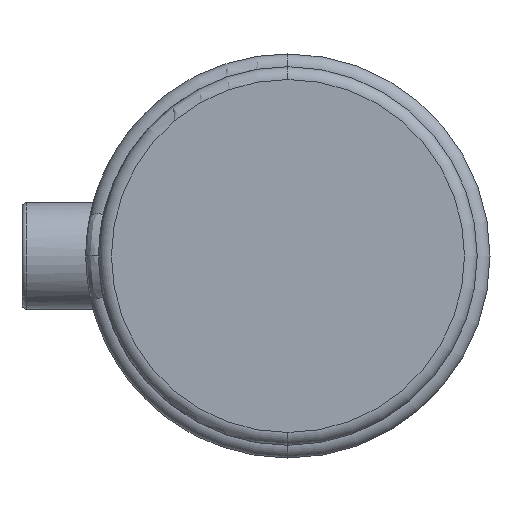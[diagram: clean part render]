
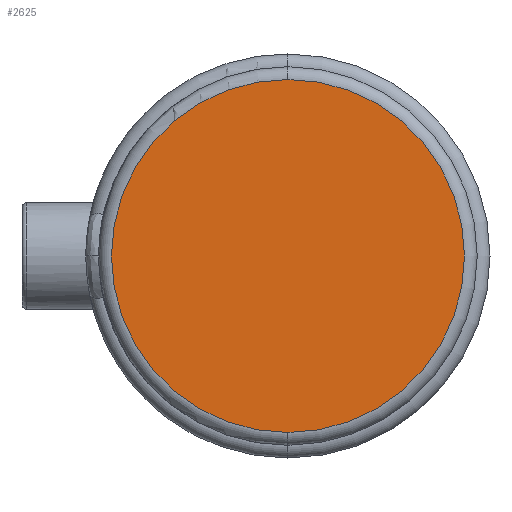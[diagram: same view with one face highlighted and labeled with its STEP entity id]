
A CAD part, left-side view. The second image highlights one B-rep face of the part: STEP entity #2625.
In plain terms, the highlighted planar face has unit normal (-1, 0, 0).
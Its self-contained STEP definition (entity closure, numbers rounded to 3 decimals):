
#370 = DIRECTION ( 'NONE',  ( 0., 0., 1. ) ) ;
#878 = EDGE_CURVE ( 'NONE', #2885, #4710, #5465, .T. ) ;
#1068 = FACE_OUTER_BOUND ( 'NONE', #3872, .T. ) ;
#1153 = EDGE_CURVE ( 'NONE', #4710, #2885, #3439, .T. ) ;
#1787 = ORIENTED_EDGE ( 'NONE', *, *, #1153, .T. ) ;
#2285 = CARTESIAN_POINT ( 'NONE',  ( 0., 0., 0. ) ) ;
#2332 = DIRECTION ( 'NONE',  ( -1., 0., 0. ) ) ;
#2493 = CARTESIAN_POINT ( 'NONE',  ( 0., 0., 41.45 ) ) ;
#2527 = AXIS2_PLACEMENT_3D ( 'NONE', #5055, #2332, #5500 ) ;
#2562 = CARTESIAN_POINT ( 'NONE',  ( 0., 0., 0. ) ) ;
#2625 = ADVANCED_FACE ( 'NONE', ( #1068 ), #5007, .T. ) ;
#2885 = VERTEX_POINT ( 'NONE', #3330 ) ;
#2964 = AXIS2_PLACEMENT_3D ( 'NONE', #2562, #5739, #3041 ) ;
#3041 = DIRECTION ( 'NONE',  ( 0., 0., 1. ) ) ;
#3228 = DIRECTION ( 'NONE',  ( -1., 0., 0. ) ) ;
#3330 = CARTESIAN_POINT ( 'NONE',  ( 0., 0., -41.45 ) ) ;
#3439 = CIRCLE ( 'NONE', #2527, 41.45 ) ;
#3626 = AXIS2_PLACEMENT_3D ( 'NONE', #2285, #3228, #370 ) ;
#3872 = EDGE_LOOP ( 'NONE', ( #1787, #5858 ) ) ;
#4710 = VERTEX_POINT ( 'NONE', #2493 ) ;
#5007 = PLANE ( 'NONE',  #3626 ) ;
#5055 = CARTESIAN_POINT ( 'NONE',  ( 0., 0., 0. ) ) ;
#5465 = CIRCLE ( 'NONE', #2964, 41.45 ) ;
#5500 = DIRECTION ( 'NONE',  ( 0., 0., 1. ) ) ;
#5739 = DIRECTION ( 'NONE',  ( -1., 0., 0. ) ) ;
#5858 = ORIENTED_EDGE ( 'NONE', *, *, #878, .T. ) ;
